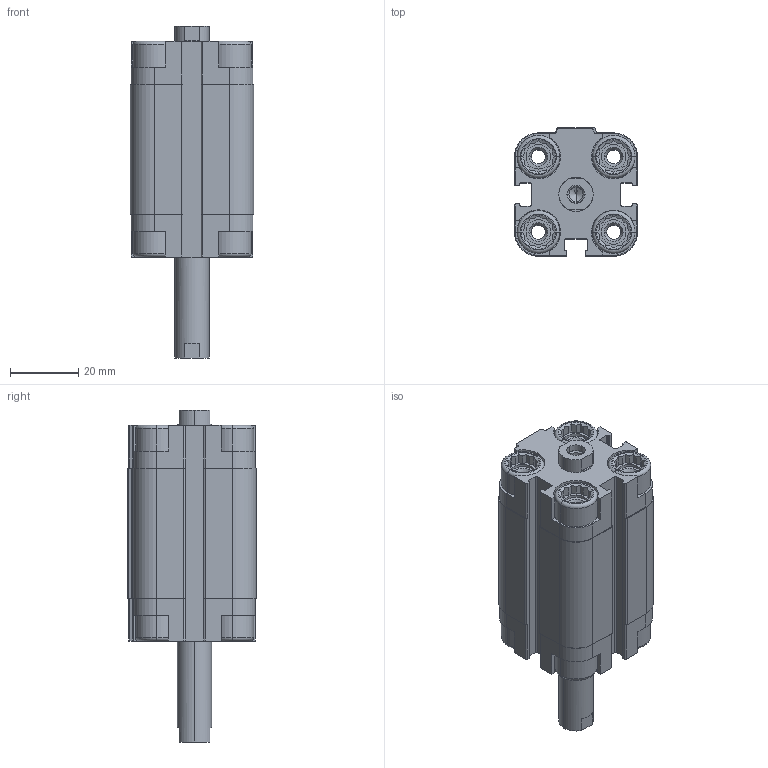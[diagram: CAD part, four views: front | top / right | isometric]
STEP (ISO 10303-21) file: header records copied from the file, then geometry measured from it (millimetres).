
FILE_DESCRIPTION (( 'STEP AP203' ), '1' );
FILE_NAME ('CDVU20-25F-P.STEP', '2020-07-24T18:07:01', ( '' ), ( '' ), 'SwSTEP 2.0', 'SolidWorks 2019', '' );
FILE_SCHEMA (( 'CONFIG_CONTROL_DESIGN' ));
Length unit declared in the file: millimetre
Products named in the file (1): CDVU20-25F-P
Bounding box: 36 x 37.5 x 97 mm (x, y, z)
Volume: 59649.3 mm3; surface area: 28895.5 mm2
Topology: 2 solids, 2 shells, 606 faces, 1598 edges, 1032 vertices
Faces by surface type: plane 358, cylinder 184, cone 48, torus 16
Entity records: 18877 total; most frequent: CARTESIAN_POINT 3805, ORIENTED_EDGE 3180, DIRECTION 3060, EDGE_CURVE 1590, AXIS2_PLACEMENT_3D 1055, VERTEX_POINT 1032, LINE 950, VECTOR 950
